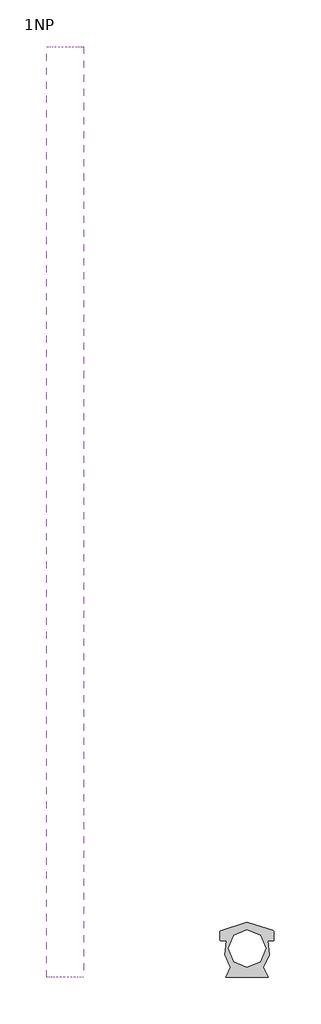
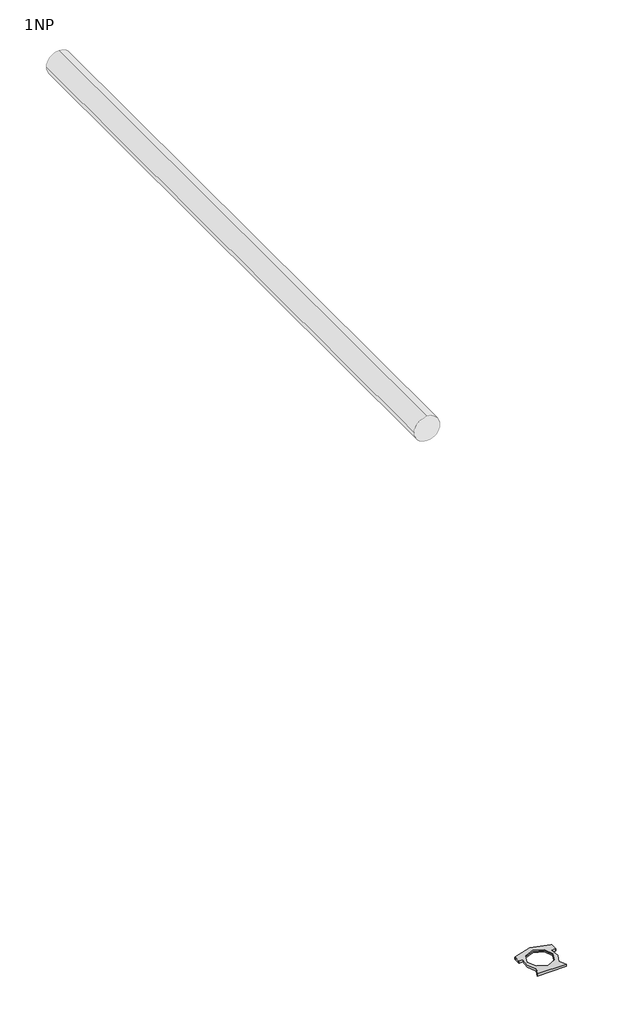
# One storey, incomplete: 1 pipe segment, 1 valve.
"""IFC4 building model written with IfcOpenShell, lengths in millimetres."""

from ifc_helpers import new_model, si_unit, point, frame, frame_2d, origin, place, context, project, spatial, circle_curve, trimmed, segment, composite_curve, outline, extrude, transform, mapped, element, save
from components import valve_aa45e59f

model = new_model("IFC4")

# Units and contexts
model_context = context("Model", 3, world=origin())
ifc_project = project(units=[si_unit("LENGTHUNIT", "METRE", prefix="MILLI")], contexts=[model_context])

# Site, building, storey
site = spatial("IfcSite", under=ifc_project)
building = spatial("IfcBuilding", under=site)
storey = spatial("IfcBuildingStorey", under=building, Name="1NP", Elevation=0.0)

# Pipe segment
placement = place(None, origin())
element("IfcPipeSegment", 1, ObjectType="BEYAZ PP atıkl Parçası", at=placement, inside=storey, context=model_context, shape_type="SweptSolid", body=[
    extrude(outline(composite_curve([segment(trimmed(circle_curve(frame_2d((2654.0, -159.1303841)), 55.0), [point((2654.0, -214.1303841))], [point((2599.0, -159.1303841))], False, "CARTESIAN"), True, "CONTINUOUS"), segment(trimmed(circle_curve(frame_2d((2654.0, -159.1303841)), 55.0), [point((2599.0, -159.1303841))], [point((2654.0, -104.1303841))], False, "CARTESIAN"), True, "CONTINUOUS"), segment(trimmed(circle_curve(frame_2d((2654.0, -159.1303841)), 55.0), [point((2654.0, -104.1303841))], [point((2709.0, -159.1303841))], False, "CARTESIAN"), True, "CONTINUOUS"), segment(trimmed(circle_curve(frame_2d((2654.0, -159.1303841)), 55.0), [point((2709.0, -159.1303841))], [point((2654.0, -214.1303841))], False, "CARTESIAN"), True, "CONTINUOUS")], self_intersect=False)), frame((0.0, 0.0, 0.0), z_axis=(0.0, 1.0, 0.0), x_axis=(0.0, 0.0, 1.0)), (0.0, 0.0, 1.0), 2740.0),
])

# Valve
valve_shape = valve_aa45e59f(model_context)
element("IfcValve", 2, ObjectType="PP_KELEPÇE : PP_KELEPÇE", at=placement, inside=storey, context=model_context, shape_type="MappedRepresentation", body=[
    mapped(valve_shape, transform((377.0616574, 85.9625353, 5.0), x_axis=(0.0, 0.0, -1.0), y_axis=(-1.0, 0.0, 0.0), z_axis=(0.0, 1.0, 0.0))),
])

save(model, "model.ifc")
